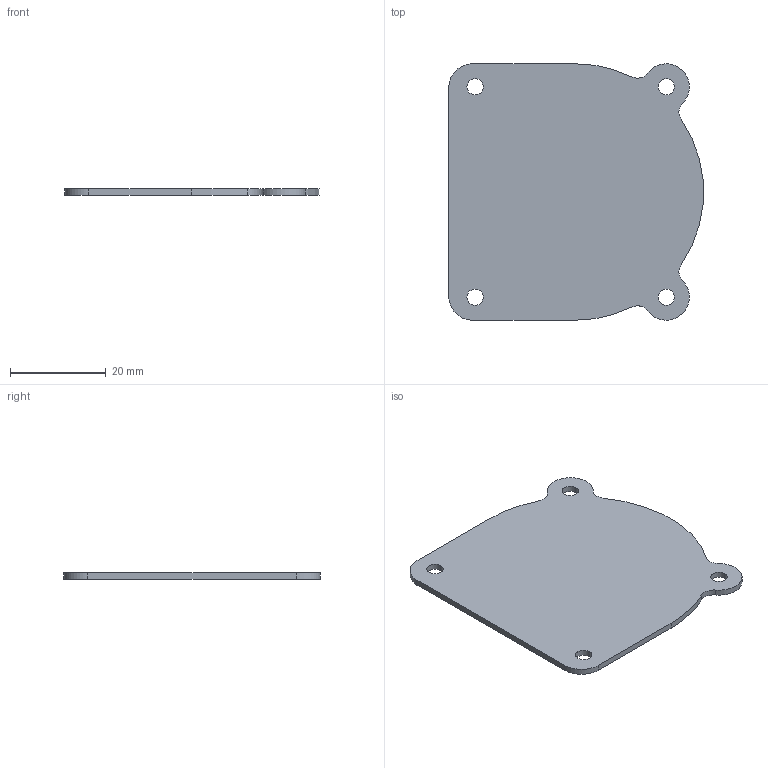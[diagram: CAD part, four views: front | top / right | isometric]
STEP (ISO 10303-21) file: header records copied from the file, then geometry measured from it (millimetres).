
FILE_DESCRIPTION (( 'STEP AP214' ), '1' );
FILE_NAME ('Backplate.step', '2025-12-23T15:53:10', ( '' ), ( '' ), 'SwSTEP 2.0', 'SolidWorks 2026', '' );
FILE_SCHEMA (( 'AUTOMOTIVE_DESIGN' ));
Length unit declared in the file: inch
Products named in the file (1): Backplate
Bounding box: 53.22 x 53.63 x 1.27 mm (x, y, z)
Volume: 3335.2 mm3; surface area: 5567.6 mm2
Topology: 1 solids, 1 shells, 26 faces, 72 edges, 48 vertices
Faces by surface type: cylinder 19, plane 5, bspline 2
Entity records: 903 total; most frequent: CARTESIAN_POINT 173, DIRECTION 156, ORIENTED_EDGE 144, EDGE_CURVE 72, AXIS2_PLACEMENT_3D 63, VERTEX_POINT 48, CIRCLE 38, EDGE_LOOP 34
